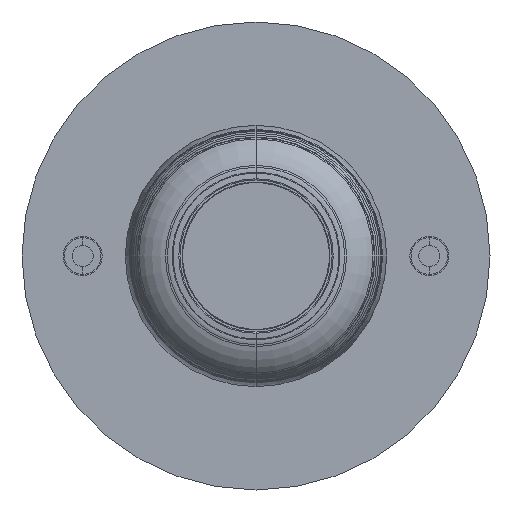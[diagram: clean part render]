
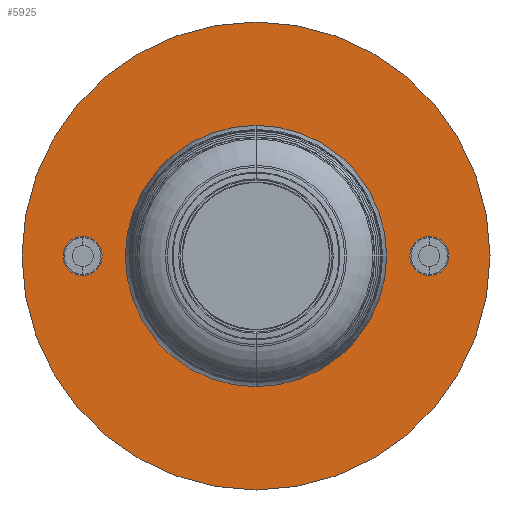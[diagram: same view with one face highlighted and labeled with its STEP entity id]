
A CAD part, front view. The second image highlights one B-rep face of the part: STEP entity #5925.
In plain terms, the highlighted planar face has unit normal (0, -1, 0).
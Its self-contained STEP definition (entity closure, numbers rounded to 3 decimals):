
#69 = DIRECTION ( 'NONE',  ( 0., -1., 0. ) ) ;
#233 = FACE_BOUND ( 'NONE', #3263, .T. ) ;
#240 = CARTESIAN_POINT ( 'NONE',  ( -44.45, -1., -4.7 ) ) ;
#433 = CARTESIAN_POINT ( 'NONE',  ( 0., -1., 60. ) ) ;
#480 = AXIS2_PLACEMENT_3D ( 'NONE', #3536, #3102, #3640 ) ;
#510 = DIRECTION ( 'NONE',  ( 0., 0., -1. ) ) ;
#640 = CIRCLE ( 'NONE', #3319, 5.05 ) ;
#712 = CARTESIAN_POINT ( 'NONE',  ( 44.45, -1., 0. ) ) ;
#877 = AXIS2_PLACEMENT_3D ( 'NONE', #4674, #2401, #6905 ) ;
#878 = FACE_BOUND ( 'NONE', #2443, .T. ) ;
#886 = DIRECTION ( 'NONE',  ( 0., 1., 0. ) ) ;
#900 = EDGE_CURVE ( 'NONE', #2605, #5468, #4724, .T. ) ;
#928 = VERTEX_POINT ( 'NONE', #433 ) ;
#1223 = DIRECTION ( 'NONE',  ( 0., -1., 0. ) ) ;
#1314 = PLANE ( 'NONE',  #480 ) ;
#1333 = EDGE_CURVE ( 'NONE', #5468, #2605, #2306, .T. ) ;
#1334 = CIRCLE ( 'NONE', #877, 60. ) ;
#1645 = ORIENTED_EDGE ( 'NONE', *, *, #2300, .T. ) ;
#1793 = DIRECTION ( 'NONE',  ( 0., 0., -1. ) ) ;
#1905 = FACE_BOUND ( 'NONE', #2916, .T. ) ;
#2022 = ORIENTED_EDGE ( 'NONE', *, *, #4331, .T. ) ;
#2058 = AXIS2_PLACEMENT_3D ( 'NONE', #5495, #4392, #510 ) ;
#2207 = AXIS2_PLACEMENT_3D ( 'NONE', #712, #1223, #6690 ) ;
#2300 = EDGE_CURVE ( 'NONE', #6217, #2914, #3819, .T. ) ;
#2306 = CIRCLE ( 'NONE', #3458, 4.7 ) ;
#2344 = CARTESIAN_POINT ( 'NONE',  ( 0., -1., 0. ) ) ;
#2349 = EDGE_CURVE ( 'NONE', #5237, #4932, #4408, .T. ) ;
#2401 = DIRECTION ( 'NONE',  ( 0., 1., 0. ) ) ;
#2443 = EDGE_LOOP ( 'NONE', ( #1645, #2022 ) ) ;
#2586 = DIRECTION ( 'NONE',  ( 0., -1., 0. ) ) ;
#2605 = VERTEX_POINT ( 'NONE', #4946 ) ;
#2614 = ORIENTED_EDGE ( 'NONE', *, *, #900, .F. ) ;
#2728 = ORIENTED_EDGE ( 'NONE', *, *, #4624, .F. ) ;
#2914 = VERTEX_POINT ( 'NONE', #3662 ) ;
#2916 = EDGE_LOOP ( 'NONE', ( #3014, #2614 ) ) ;
#3014 = ORIENTED_EDGE ( 'NONE', *, *, #1333, .F. ) ;
#3038 = DIRECTION ( 'NONE',  ( 0., 0., -1. ) ) ;
#3102 = DIRECTION ( 'NONE',  ( 0., -1., 0. ) ) ;
#3247 = AXIS2_PLACEMENT_3D ( 'NONE', #5171, #2586, #4797 ) ;
#3263 = EDGE_LOOP ( 'NONE', ( #6608, #7058 ) ) ;
#3273 = EDGE_CURVE ( 'NONE', #4932, #5237, #5340, .T. ) ;
#3319 = AXIS2_PLACEMENT_3D ( 'NONE', #3579, #886, #3038 ) ;
#3458 = AXIS2_PLACEMENT_3D ( 'NONE', #5482, #69, #7106 ) ;
#3536 = CARTESIAN_POINT ( 'NONE',  ( 0., -1., 0. ) ) ;
#3562 = ORIENTED_EDGE ( 'NONE', *, *, #5560, .F. ) ;
#3579 = CARTESIAN_POINT ( 'NONE',  ( 0., -1., 0. ) ) ;
#3640 = DIRECTION ( 'NONE',  ( 0., 0., -1. ) ) ;
#3662 = CARTESIAN_POINT ( 'NONE',  ( 0., -1., -5.05 ) ) ;
#3819 = CIRCLE ( 'NONE', #4634, 5.05 ) ;
#3884 = CIRCLE ( 'NONE', #6912, 60. ) ;
#4306 = EDGE_LOOP ( 'NONE', ( #2728, #3562 ) ) ;
#4331 = EDGE_CURVE ( 'NONE', #2914, #6217, #640, .T. ) ;
#4375 = DIRECTION ( 'NONE',  ( 0., 0., -1. ) ) ;
#4392 = DIRECTION ( 'NONE',  ( 0., -1., 0. ) ) ;
#4408 = CIRCLE ( 'NONE', #3247, 4.7 ) ;
#4592 = CARTESIAN_POINT ( 'NONE',  ( 44.45, -1., -4.7 ) ) ;
#4624 = EDGE_CURVE ( 'NONE', #928, #5808, #1334, .T. ) ;
#4634 = AXIS2_PLACEMENT_3D ( 'NONE', #2344, #6774, #1793 ) ;
#4674 = CARTESIAN_POINT ( 'NONE',  ( 0., -1., 0. ) ) ;
#4724 = CIRCLE ( 'NONE', #2058, 4.7 ) ;
#4797 = DIRECTION ( 'NONE',  ( 0., 0., -1. ) ) ;
#4932 = VERTEX_POINT ( 'NONE', #4592 ) ;
#4946 = CARTESIAN_POINT ( 'NONE',  ( -44.45, -1., 4.7 ) ) ;
#5171 = CARTESIAN_POINT ( 'NONE',  ( 44.45, -1., 0. ) ) ;
#5237 = VERTEX_POINT ( 'NONE', #6787 ) ;
#5340 = CIRCLE ( 'NONE', #2207, 4.7 ) ;
#5400 = CARTESIAN_POINT ( 'NONE',  ( 0., -1., 0. ) ) ;
#5468 = VERTEX_POINT ( 'NONE', #240 ) ;
#5482 = CARTESIAN_POINT ( 'NONE',  ( -44.45, -1., 0. ) ) ;
#5495 = CARTESIAN_POINT ( 'NONE',  ( -44.45, -1., 0. ) ) ;
#5560 = EDGE_CURVE ( 'NONE', #5808, #928, #3884, .T. ) ;
#5739 = CARTESIAN_POINT ( 'NONE',  ( 0., -1., 5.05 ) ) ;
#5808 = VERTEX_POINT ( 'NONE', #6744 ) ;
#5925 = ADVANCED_FACE ( 'NONE', ( #233, #1905, #878, #6306 ), #1314, .T. ) ;
#6023 = DIRECTION ( 'NONE',  ( 0., 1., 0. ) ) ;
#6217 = VERTEX_POINT ( 'NONE', #5739 ) ;
#6306 = FACE_OUTER_BOUND ( 'NONE', #4306, .T. ) ;
#6608 = ORIENTED_EDGE ( 'NONE', *, *, #3273, .F. ) ;
#6690 = DIRECTION ( 'NONE',  ( 0., 0., -1. ) ) ;
#6744 = CARTESIAN_POINT ( 'NONE',  ( 0., -1., -60. ) ) ;
#6774 = DIRECTION ( 'NONE',  ( 0., 1., 0. ) ) ;
#6787 = CARTESIAN_POINT ( 'NONE',  ( 44.45, -1., 4.7 ) ) ;
#6905 = DIRECTION ( 'NONE',  ( 0., 0., -1. ) ) ;
#6912 = AXIS2_PLACEMENT_3D ( 'NONE', #5400, #6023, #4375 ) ;
#7058 = ORIENTED_EDGE ( 'NONE', *, *, #2349, .F. ) ;
#7106 = DIRECTION ( 'NONE',  ( 0., 0., -1. ) ) ;
